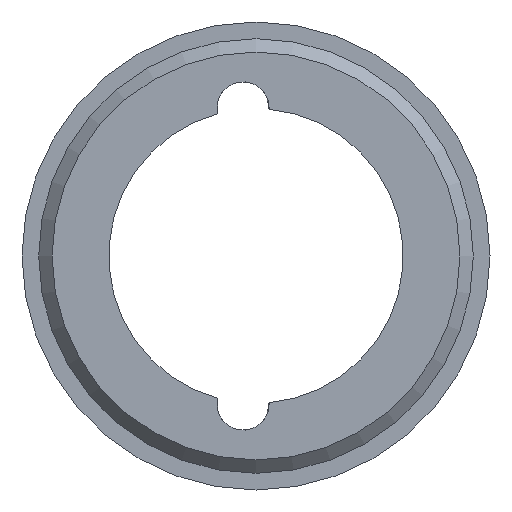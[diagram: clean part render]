
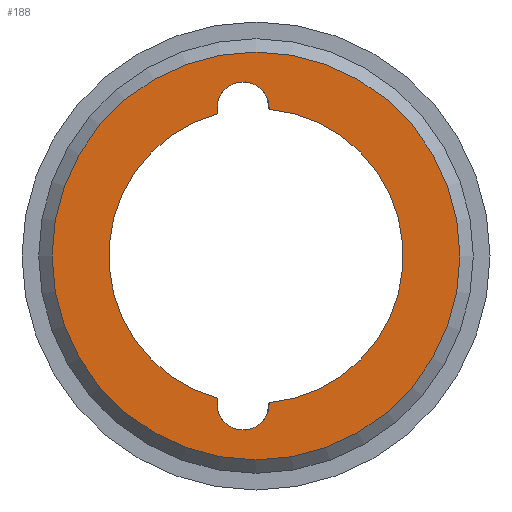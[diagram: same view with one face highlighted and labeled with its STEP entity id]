
A CAD part, left-side view. The second image highlights one B-rep face of the part: STEP entity #188.
In plain terms, the highlighted planar face has unit normal (-1, 0, 0).
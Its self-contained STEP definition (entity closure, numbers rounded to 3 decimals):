
#15=FACE_BOUND('',#50,.T.);
#22=PLANE('',#214);
#36=FACE_OUTER_BOUND('',#49,.T.);
#49=EDGE_LOOP('',(#155));
#50=EDGE_LOOP('',(#156,#157,#158,#159));
#66=CIRCLE('',#203,22.025);
#69=CIRCLE('',#207,3.899);
#71=CIRCLE('',#210,3.899);
#73=CIRCLE('',#213,22.025);
#74=CIRCLE('',#215,30.5);
#92=VERTEX_POINT('',#335);
#93=VERTEX_POINT('',#342);
#96=VERTEX_POINT('',#355);
#98=VERTEX_POINT('',#365);
#99=VERTEX_POINT('',#378);
#112=EDGE_CURVE('',#93,#92,#66,.T.);
#117=EDGE_CURVE('',#92,#96,#69,.T.);
#120=EDGE_CURVE('',#98,#93,#71,.T.);
#122=EDGE_CURVE('',#96,#98,#73,.T.);
#123=EDGE_CURVE('',#99,#99,#74,.T.);
#155=ORIENTED_EDGE('',*,*,#123,.F.);
#156=ORIENTED_EDGE('',*,*,#117,.T.);
#157=ORIENTED_EDGE('',*,*,#122,.T.);
#158=ORIENTED_EDGE('',*,*,#120,.T.);
#159=ORIENTED_EDGE('',*,*,#112,.T.);
#188=ADVANCED_FACE('',(#36,#15),#22,.T.);
#203=AXIS2_PLACEMENT_3D('',#343,#241,#242);
#207=AXIS2_PLACEMENT_3D('',#362,#249,#250);
#210=AXIS2_PLACEMENT_3D('',#373,#255,#256);
#213=AXIS2_PLACEMENT_3D('',#376,#261,#262);
#214=AXIS2_PLACEMENT_3D('',#377,#263,#264);
#215=AXIS2_PLACEMENT_3D('',#379,#265,#266);
#241=DIRECTION('center_axis',(1.,0.,0.));
#242=DIRECTION('ref_axis',(0.,0.,-1.));
#249=DIRECTION('center_axis',(1.,0.,0.));
#250=DIRECTION('ref_axis',(0.,0.974,0.225));
#255=DIRECTION('center_axis',(1.,0.,0.));
#256=DIRECTION('ref_axis',(0.,-0.999,-0.052));
#261=DIRECTION('center_axis',(1.,0.,0.));
#262=DIRECTION('ref_axis',(0.,0.,-1.));
#263=DIRECTION('center_axis',(-1.,0.,0.));
#264=DIRECTION('ref_axis',(0.,0.,1.));
#265=DIRECTION('center_axis',(1.,0.,0.));
#266=DIRECTION('ref_axis',(0.,0.,-1.));
#335=CARTESIAN_POINT('',(-13.291,-14.473,-21.938));
#342=CARTESIAN_POINT('',(-13.291,-14.473,21.938));
#343=CARTESIAN_POINT('Origin',(-13.291,-12.516,0.));
#355=CARTESIAN_POINT('',(-13.291,-6.78,-21.265));
#362=CARTESIAN_POINT('Origin',(-13.291,-10.579,-22.14));
#365=CARTESIAN_POINT('',(-13.291,-6.78,21.265));
#373=CARTESIAN_POINT('Origin',(-13.291,-10.579,22.14));
#376=CARTESIAN_POINT('Origin',(-13.291,-12.516,0.));
#377=CARTESIAN_POINT('Origin',(-13.291,17.984,0.));
#378=CARTESIAN_POINT('',(-13.291,17.984,0.));
#379=CARTESIAN_POINT('Origin',(-13.291,-12.516,0.));
